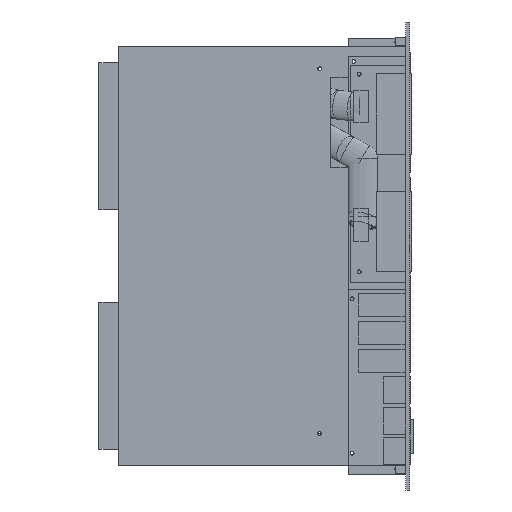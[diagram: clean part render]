
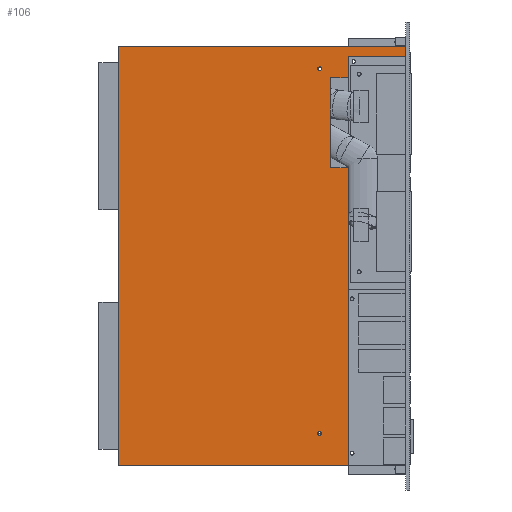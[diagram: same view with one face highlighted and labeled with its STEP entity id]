
A CAD part, left-side view. The second image highlights one B-rep face of the part: STEP entity #106.
In plain terms, the highlighted planar face has unit normal (-1, 0, 0).
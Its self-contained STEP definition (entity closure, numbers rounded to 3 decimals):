
#106 = ADVANCED_FACE('',(#107,#189,#200),#211,.F.);
#107 = FACE_BOUND('',#108,.F.);
#108 = EDGE_LOOP('',(#109,#119,#127,#135,#143,#151,#159,#167,#175,#183)
  );
#109 = ORIENTED_EDGE('',*,*,#110,.F.);
#110 = EDGE_CURVE('',#111,#113,#115,.T.);
#111 = VERTEX_POINT('',#112);
#112 = CARTESIAN_POINT('',(6.97,0.,241.45));
#113 = VERTEX_POINT('',#114);
#114 = CARTESIAN_POINT('',(6.97,0.,246.9));
#115 = LINE('',#116,#117);
#116 = CARTESIAN_POINT('',(6.97,0.,13.55));
#117 = VECTOR('',#118,1.);
#118 = DIRECTION('',(0.,0.,1.));
#119 = ORIENTED_EDGE('',*,*,#120,.F.);
#120 = EDGE_CURVE('',#121,#111,#123,.T.);
#121 = VERTEX_POINT('',#122);
#122 = CARTESIAN_POINT('',(6.97,32.,241.45));
#123 = LINE('',#124,#125);
#124 = CARTESIAN_POINT('',(6.97,-0.5,241.45));
#125 = VECTOR('',#126,1.);
#126 = DIRECTION('',(0.,-1.,0.));
#127 = ORIENTED_EDGE('',*,*,#128,.F.);
#128 = EDGE_CURVE('',#129,#121,#131,.T.);
#129 = VERTEX_POINT('',#130);
#130 = CARTESIAN_POINT('',(6.97,32.,229.45));
#131 = LINE('',#132,#133);
#132 = CARTESIAN_POINT('',(6.97,32.,13.));
#133 = VECTOR('',#134,1.);
#134 = DIRECTION('',(0.,0.,1.));
#135 = ORIENTED_EDGE('',*,*,#136,.F.);
#136 = EDGE_CURVE('',#137,#129,#139,.T.);
#137 = VERTEX_POINT('',#138);
#138 = CARTESIAN_POINT('',(6.97,42.,229.45));
#139 = LINE('',#140,#141);
#140 = CARTESIAN_POINT('',(6.97,-0.5,229.45));
#141 = VECTOR('',#142,1.);
#142 = DIRECTION('',(0.,-1.,0.));
#143 = ORIENTED_EDGE('',*,*,#144,.F.);
#144 = EDGE_CURVE('',#145,#137,#147,.T.);
#145 = VERTEX_POINT('',#146);
#146 = CARTESIAN_POINT('',(6.97,42.,179.45));
#147 = LINE('',#148,#149);
#148 = CARTESIAN_POINT('',(6.97,42.,96.5));
#149 = VECTOR('',#150,1.);
#150 = DIRECTION('',(0.,0.,1.));
#151 = ORIENTED_EDGE('',*,*,#152,.T.);
#152 = EDGE_CURVE('',#145,#153,#155,.T.);
#153 = VERTEX_POINT('',#154);
#154 = CARTESIAN_POINT('',(6.97,32.,179.45));
#155 = LINE('',#156,#157);
#156 = CARTESIAN_POINT('',(6.97,-0.5,179.45));
#157 = VECTOR('',#158,1.);
#158 = DIRECTION('',(0.,-1.,0.));
#159 = ORIENTED_EDGE('',*,*,#160,.F.);
#160 = EDGE_CURVE('',#161,#153,#163,.T.);
#161 = VERTEX_POINT('',#162);
#162 = CARTESIAN_POINT('',(6.97,32.,13.55));
#163 = LINE('',#164,#165);
#164 = CARTESIAN_POINT('',(6.97,32.,13.));
#165 = VECTOR('',#166,1.);
#166 = DIRECTION('',(0.,0.,1.));
#167 = ORIENTED_EDGE('',*,*,#168,.T.);
#168 = EDGE_CURVE('',#161,#169,#171,.T.);
#169 = VERTEX_POINT('',#170);
#170 = CARTESIAN_POINT('',(6.97,160.,13.55));
#171 = LINE('',#172,#173);
#172 = CARTESIAN_POINT('',(6.97,0.,13.55));
#173 = VECTOR('',#174,1.);
#174 = DIRECTION('',(-0.,1.,0.));
#175 = ORIENTED_EDGE('',*,*,#176,.T.);
#176 = EDGE_CURVE('',#169,#177,#179,.T.);
#177 = VERTEX_POINT('',#178);
#178 = CARTESIAN_POINT('',(6.97,160.,246.9));
#179 = LINE('',#180,#181);
#180 = CARTESIAN_POINT('',(6.97,160.,13.55));
#181 = VECTOR('',#182,1.);
#182 = DIRECTION('',(0.,0.,1.));
#183 = ORIENTED_EDGE('',*,*,#184,.F.);
#184 = EDGE_CURVE('',#113,#177,#185,.T.);
#185 = LINE('',#186,#187);
#186 = CARTESIAN_POINT('',(6.97,0.,246.9));
#187 = VECTOR('',#188,1.);
#188 = DIRECTION('',(-0.,1.,0.));
#189 = FACE_BOUND('',#190,.F.);
#190 = EDGE_LOOP('',(#191));
#191 = ORIENTED_EDGE('',*,*,#192,.F.);
#192 = EDGE_CURVE('',#193,#193,#195,.T.);
#193 = VERTEX_POINT('',#194);
#194 = CARTESIAN_POINT('',(6.97,48.,32.55));
#195 = CIRCLE('',#196,1.1);
#196 = AXIS2_PLACEMENT_3D('',#197,#198,#199);
#197 = CARTESIAN_POINT('',(6.97,48.,31.45));
#198 = DIRECTION('',(1.,0.,0.));
#199 = DIRECTION('',(-0.,0.,1.));
#200 = FACE_BOUND('',#201,.F.);
#201 = EDGE_LOOP('',(#202));
#202 = ORIENTED_EDGE('',*,*,#203,.F.);
#203 = EDGE_CURVE('',#204,#204,#206,.T.);
#204 = VERTEX_POINT('',#205);
#205 = CARTESIAN_POINT('',(6.97,48.,235.55));
#206 = CIRCLE('',#207,1.1);
#207 = AXIS2_PLACEMENT_3D('',#208,#209,#210);
#208 = CARTESIAN_POINT('',(6.97,48.,234.45));
#209 = DIRECTION('',(1.,0.,0.));
#210 = DIRECTION('',(-0.,0.,1.));
#211 = PLANE('',#212);
#212 = AXIS2_PLACEMENT_3D('',#213,#214,#215);
#213 = CARTESIAN_POINT('',(6.97,0.,13.55));
#214 = DIRECTION('',(1.,0.,-0.));
#215 = DIRECTION('',(0.,0.,1.));
